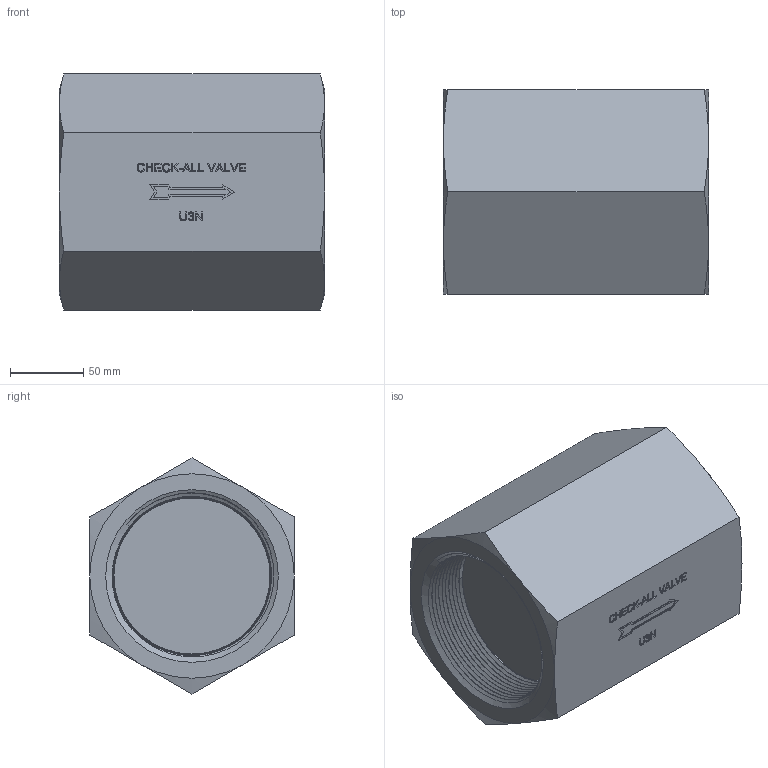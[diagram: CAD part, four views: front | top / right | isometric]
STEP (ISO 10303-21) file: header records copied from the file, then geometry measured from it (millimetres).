
FILE_DESCRIPTION( ( 'Unknown' ), '1' );
FILE_NAME( 'Y:/ENGR/3D Solid Edge Models/U3/U3-PRT/U3N.stp', 'Unknown', ( 'Unknown' ), ( 'Unknown' ), 'PSStep 14.0', 'Unknown', ' ' );
FILE_SCHEMA( ( 'AUTOMOTIVE_DESIGN { 1 0 10303 214 1 1 1 1 }' ) );
Length unit declared in the file: inch
Products named in the file (1): 1
Bounding box: 181.1 x 139.7 x 161.31 mm (x, y, z)
Volume: 2403880.6 mm3; surface area: 160810.2 mm2
Topology: 1 solids, 1 shells, 221 faces, 570 edges, 374 vertices
Faces by surface type: extrusion 136, plane 57, cone 16, bspline 12
Entity records: 24835 total; most frequent: CARTESIAN_POINT 18107, ORIENTED_EDGE 1132, DIRECTION 662, EDGE_CURVE 566, VECTOR 482, VERTEX_POINT 372, LINE 346, B_SPLINE_CURVE_WITH_KNOTS 340
